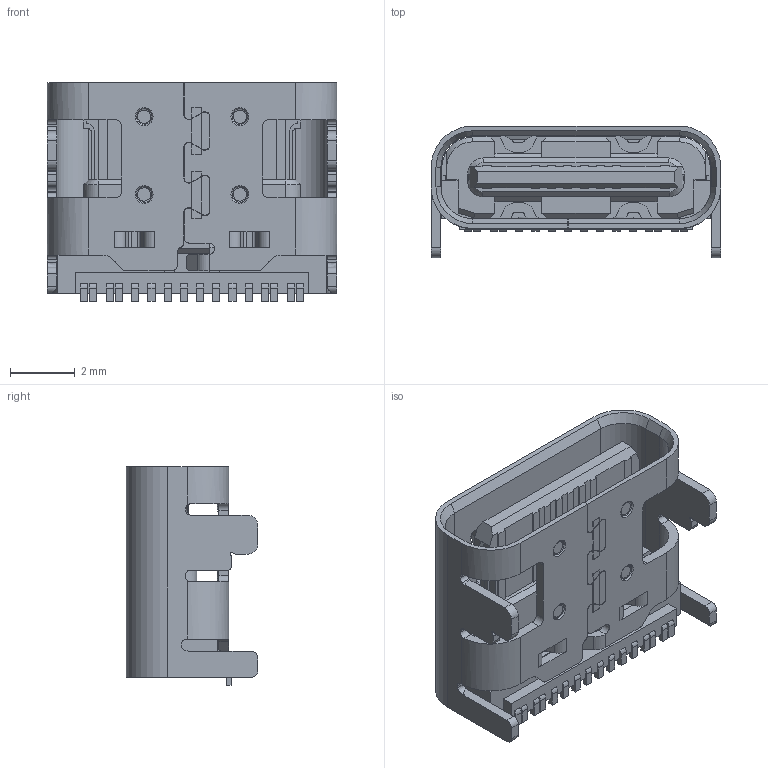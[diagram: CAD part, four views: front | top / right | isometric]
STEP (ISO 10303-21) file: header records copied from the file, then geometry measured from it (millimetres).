
FILE_DESCRIPTION((''),'2;1');
FILE_NAME('I-U41665060-N','2025-01-09T',('Administrator'),(''),'PRO/ENGINEER BY PARAMETRIC TECHNOLOGY CORPORATION, 2011310','PRO/ENGINEER BY PARAMETRIC TECHNOLOGY CORPORATION, 2011310','');
FILE_SCHEMA(('CONFIG_CONTROL_DESIGN'));
Length unit declared in the file: millimetre
Products named in the file (1): I-U41665060-N
Bounding box: 8.94 x 4.06 x 6.75 mm (x, y, z)
Volume: 95.2 mm3; surface area: 432.4 mm2
Topology: 1 solids, 1 shells, 728 faces, 2201 edges, 1462 vertices
Faces by surface type: plane 502, cylinder 177, cone 23, bspline 14, torus 8, extrusion 4
Entity records: 25751 total; most frequent: CARTESIAN_POINT 5642, ORIENTED_EDGE 4402, DIRECTION 4015, EDGE_CURVE 2201, VECTOR 1649, LINE 1645, VERTEX_POINT 1462, AXIS2_PLACEMENT_3D 1183
